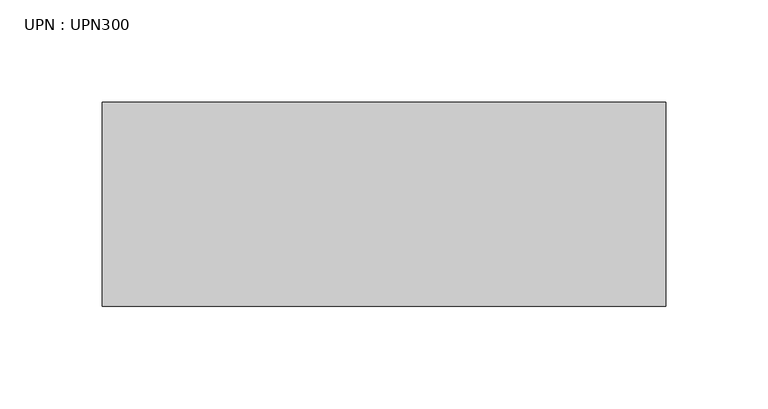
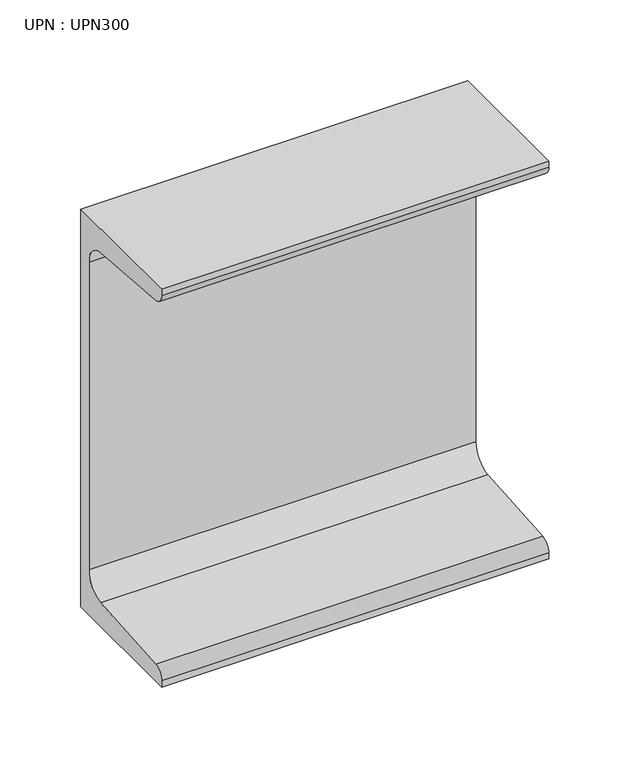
"""IFC4 building model written with IfcOpenShell, lengths in millimetres: beam geometry, UPN : UPN300."""

from ifc_helpers import new_model, si_unit, point, frame, frame_2d, origin, place, context, project, spatial, polyline, circle_curve, trimmed, segment, composite_curve, outline, extrude, source, transform, mapped, element, save


def upn_upn300_362bb5d2(model_context):
    return source(origin(), model_context, "Body", "SweptSolid", [
        extrude(outline(composite_curve([segment(polyline([(27.0, 150.0), (27.0, -150.0), (-73.0, -150.0), (-73.0, -145.3826224)]), True, "CONTINUOUS"), segment(trimmed(circle_curve(frame_2d((-65.0, -145.3826224)), 8.0), [point((-73.0, -145.3826224))], [point((-65.637416, -137.4080566))], False, "CARTESIAN"), True, "CONTINUOUS"), segment(polyline([(-65.637416, -137.4080566), (2.274832, -131.9797543)]), True, "CONTINUOUS"), segment(trimmed(circle_curve(frame_2d((1.0, -116.0306225)), 16.0), [point((2.274832, -131.9797543))], [point((17.0, -116.0306225))], True, "CARTESIAN"), True, "CONTINUOUS"), segment(polyline([(17.0, -116.0306225), (17.0, 116.0306225)]), True, "CONTINUOUS"), segment(trimmed(circle_curve(frame_2d((1.0, 116.0306225)), 16.0), [point((17.0, 116.0306225))], [point((2.274832, 131.9797543))], True, "CARTESIAN"), True, "CONTINUOUS"), segment(polyline([(2.274832, 131.9797543), (-65.637416, 137.4080566)]), True, "CONTINUOUS"), segment(trimmed(circle_curve(frame_2d((-65.0, 145.3826224)), 8.0), [point((-65.637416, 137.4080566))], [point((-73.0, 145.3826224))], False, "CARTESIAN"), True, "CONTINUOUS"), segment(polyline([(-73.0, 145.3826224), (-73.0, 150.0), (27.0, 150.0)]), True, "CONTINUOUS")], self_intersect=False)), frame((-138.05, 0.0, 0.0), z_axis=(1.0, 0.0, 0.0), x_axis=(0.0, 1.0, 0.0)), (0.0, 0.0, 1.0), 276.0),
    ])


if __name__ == "__main__":
    model = new_model("IFC4")
    model_context = context("Model", 3, world=origin())
    ifc_project = project(units=[si_unit("LENGTHUNIT", "METRE", prefix="MILLI")], contexts=[model_context])
    site = spatial("IfcSite", under=ifc_project)
    building = spatial("IfcBuilding", under=site)
    placement = place(None, origin())
    upn_upn300_shape = upn_upn300_362bb5d2(model_context)
    element("IfcBeam", 1, ObjectType="UPN : UPN300", at=placement, inside=building, context=model_context, shape_type="MappedRepresentation", body=[
        mapped(upn_upn300_shape, transform((0.0, 0.0, 0.0), x_axis=(1.0, 0.0, 0.0), y_axis=(0.0, 1.0, 0.0), z_axis=(0.0, 0.0, 1.0))),
    ])
    save(model, "model.ifc")
